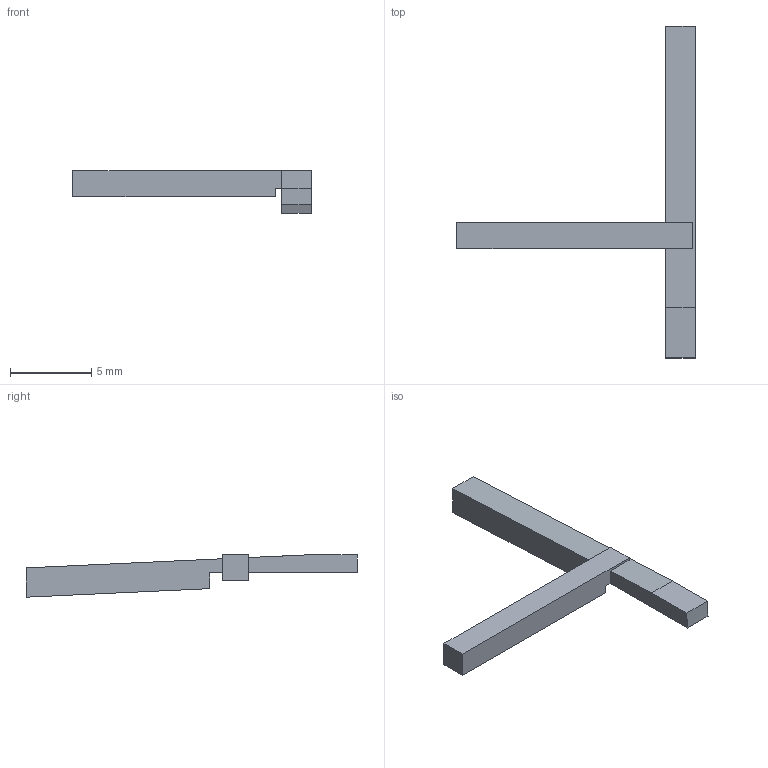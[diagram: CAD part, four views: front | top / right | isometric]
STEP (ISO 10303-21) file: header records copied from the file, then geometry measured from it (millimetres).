
FILE_DESCRIPTION(('Open CASCADE Model'),'2;1');
FILE_NAME('Open CASCADE Shape Model','2026-10-17T17:22:12',('Author'),( 'Open CASCADE'),'Open CASCADE STEP processor 7.9','Open CASCADE 7.9' ,'Unknown');
FILE_SCHEMA(('AUTOMOTIVE_DESIGN { 1 0 10303 214 1 1 1 1 }'));
Length unit declared in the file: millimetre
Products named in the file (1): Open CASCADE STEP translator 7.9 4
Bounding box: 14.65 x 20.41 x 2.6 mm (x, y, z)
Volume: 86.3 mm3; surface area: 224.3 mm2
Topology: 1 solids, 1 shells, 17 faces, 45 edges, 30 vertices
Faces by surface type: plane 17
Entity records: 1064 total; most frequent: CARTESIAN_POINT 233, DIRECTION 121, ORIENTED_EDGE 90, PCURVE 90, DEFINITIONAL_REPRESENTATION 90, LINE 85, VECTOR 85, B_SPLINE_CURVE_WITH_KNOTS 50
